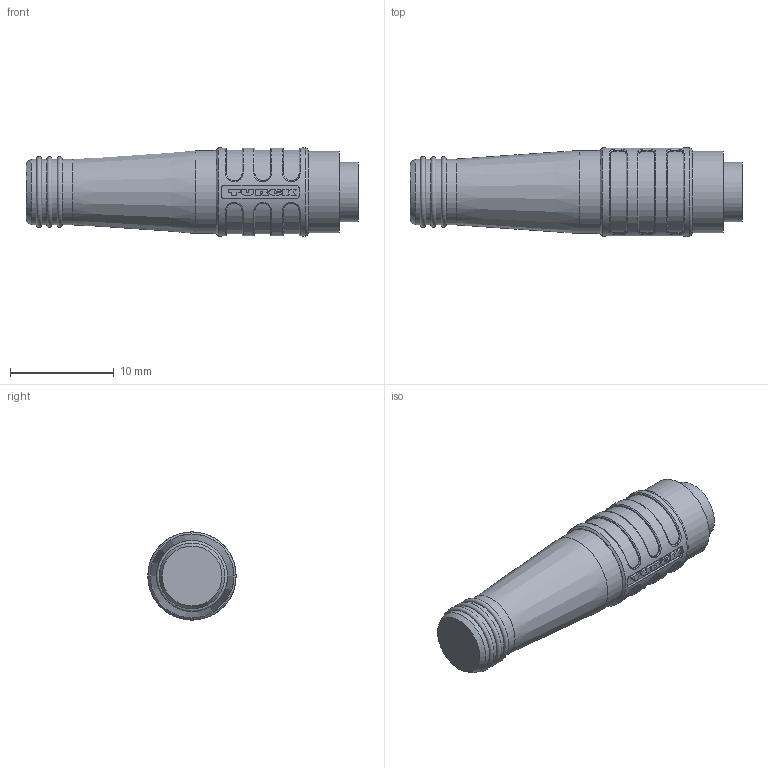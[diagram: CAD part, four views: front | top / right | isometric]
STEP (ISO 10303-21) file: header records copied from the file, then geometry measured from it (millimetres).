
FILE_DESCRIPTION((''),'2;1');
FILE_NAME('C:\TurckZip\MFGD0040.stp','2008-12-16T12:30:25',('IKOROL'),(''),'Autodesk Inventor 2009','Autodesk Inventor 2009','');
FILE_SCHEMA(('CONFIG_CONTROL_DESIGN'));
Length unit declared in the file: millimetre
Products named in the file (1): Part2
Bounding box: 32 x 8.5 x 8.5 mm (x, y, z)
Volume: 1119.9 mm3; surface area: 1420 mm2
Topology: 1 solids, 2 shells, 481 faces, 1338 edges, 888 vertices
Faces by surface type: plane 407, cylinder 41, torus 17, bspline 13, cone 3
Full cylindrical faces by diameter (mm): 4.2 x1, 5.7 x2, 6.35 x4, 6.5 x2, 7.9 x1, 8.003 x1, 8.5 x1
Entity records: 17200 total; most frequent: CARTESIAN_POINT 5014, ORIENTED_EDGE 2612, DIRECTION 2302, EDGE_CURVE 1306, VECTOR 1140, LINE 1140, VERTEX_POINT 876, AXIS2_PLACEMENT_3D 581
